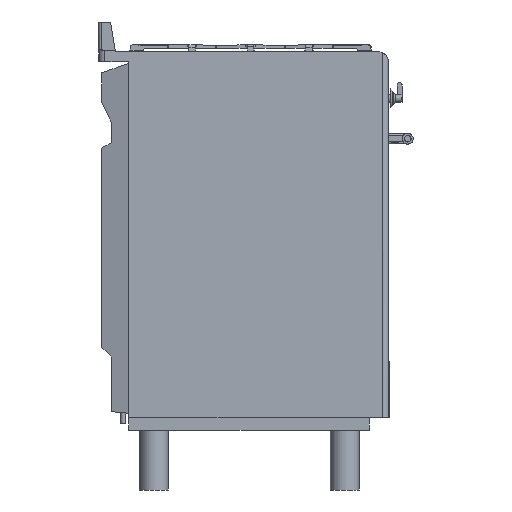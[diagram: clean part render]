
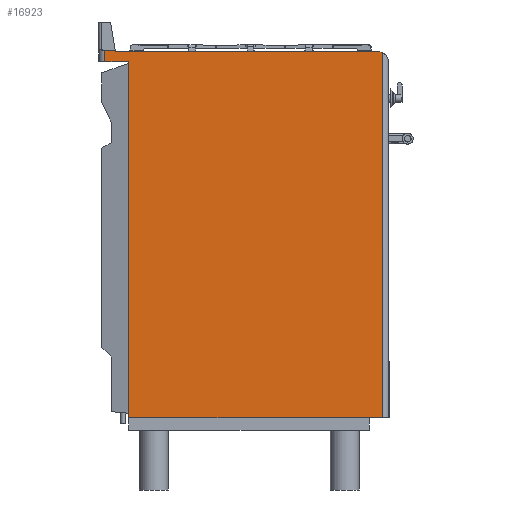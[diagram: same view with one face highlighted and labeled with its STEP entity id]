
A CAD part, front view. The second image highlights one B-rep face of the part: STEP entity #16923.
In plain terms, the highlighted planar face has unit normal (0, -1, 0).
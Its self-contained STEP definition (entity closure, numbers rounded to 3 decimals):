
#1142=CIRCLE('',#17824,20.);
#1900=ORIENTED_EDGE('',*,*,#5842,.T.);
#1901=ORIENTED_EDGE('',*,*,#5820,.T.);
#1902=ORIENTED_EDGE('',*,*,#5730,.T.);
#1903=ORIENTED_EDGE('',*,*,#5728,.T.);
#1904=ORIENTED_EDGE('',*,*,#5718,.F.);
#1905=ORIENTED_EDGE('',*,*,#5709,.F.);
#1906=ORIENTED_EDGE('',*,*,#5841,.F.);
#1907=ORIENTED_EDGE('',*,*,#5843,.T.);
#5709=EDGE_CURVE('',#7753,#7754,#9154,.T.);
#5718=EDGE_CURVE('',#7754,#7758,#9160,.T.);
#5728=EDGE_CURVE('',#7765,#7758,#9167,.T.);
#5730=EDGE_CURVE('',#7766,#7765,#9169,.T.);
#5820=EDGE_CURVE('',#7831,#7766,#1142,.T.);
#5841=EDGE_CURVE('',#7843,#7753,#9237,.T.);
#5842=EDGE_CURVE('',#7844,#7831,#9238,.T.);
#5843=EDGE_CURVE('',#7843,#7844,#9239,.T.);
#7753=VERTEX_POINT('',#23541);
#7754=VERTEX_POINT('',#23543);
#7758=VERTEX_POINT('',#23558);
#7765=VERTEX_POINT('',#23578);
#7766=VERTEX_POINT('',#23582);
#7831=VERTEX_POINT('',#23804);
#7843=VERTEX_POINT('',#23860);
#7844=VERTEX_POINT('',#23864);
#9154=LINE('',#23542,#10236);
#9160=LINE('',#23557,#10242);
#9167=LINE('',#23577,#10249);
#9169=LINE('',#23581,#10251);
#9237=LINE('',#23861,#10319);
#9238=LINE('',#23863,#10320);
#9239=LINE('',#23865,#10321);
#10236=VECTOR('',#19381,1000.);
#10242=VECTOR('',#19397,1000.);
#10249=VECTOR('',#19416,1000.);
#10251=VECTOR('',#19420,1000.);
#10319=VECTOR('',#19640,1000.);
#10320=VECTOR('',#19643,1000.);
#10321=VECTOR('',#19644,1000.);
#11348=EDGE_LOOP('',(#1900,#1901,#1902,#1903,#1904,#1905,#1906,#1907));
#12359=FACE_BOUND('',#11348,.T.);
#13290=PLANE('',#17830);
#16923=ADVANCED_FACE('',(#12359),#13290,.T.);
#17824=AXIS2_PLACEMENT_3D('',#23803,#19614,#19615);
#17830=AXIS2_PLACEMENT_3D('',#23862,#19641,#19642);
#19381=DIRECTION('',(-1.,0.,0.));
#19397=DIRECTION('',(0.,0.,1.));
#19416=DIRECTION('',(-0.996,0.,0.087));
#19420=DIRECTION('',(-1.,0.,0.));
#19614=DIRECTION('',(0.,-1.,0.));
#19615=DIRECTION('',(-0.707,0.,-0.707));
#19640=DIRECTION('',(0.,0.,1.));
#19641=DIRECTION('',(0.,-1.,0.));
#19642=DIRECTION('',(-1.,0.,0.));
#19643=DIRECTION('',(0.,0.,1.));
#19644=DIRECTION('',(1.,0.,0.));
#23541=CARTESIAN_POINT('',(-499.211,482.014,550.39));
#23542=CARTESIAN_POINT('',(19.789,482.014,550.39));
#23543=CARTESIAN_POINT('',(-548.211,482.014,550.39));
#23557=CARTESIAN_POINT('',(-548.211,482.014,550.39));
#23558=CARTESIAN_POINT('',(-548.211,482.014,573.714));
#23577=CARTESIAN_POINT('',(-510.211,482.014,570.39));
#23578=CARTESIAN_POINT('',(-510.211,482.014,570.39));
#23581=CARTESIAN_POINT('',(11.789,482.014,570.39));
#23582=CARTESIAN_POINT('',(11.789,482.014,570.39));
#23803=CARTESIAN_POINT('',(11.789,482.014,550.39));
#23804=CARTESIAN_POINT('',(19.789,482.014,568.72));
#23860=CARTESIAN_POINT('',(-499.211,482.014,-177.61));
#23861=CARTESIAN_POINT('',(-499.211,482.014,-177.61));
#23862=CARTESIAN_POINT('',(-499.211,482.014,-177.61));
#23863=CARTESIAN_POINT('',(19.789,482.014,-177.61));
#23864=CARTESIAN_POINT('',(19.789,482.014,-177.61));
#23865=CARTESIAN_POINT('',(-499.211,482.014,-177.61));
